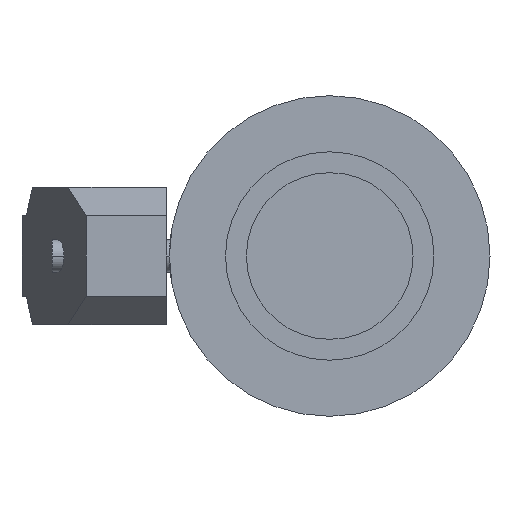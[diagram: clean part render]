
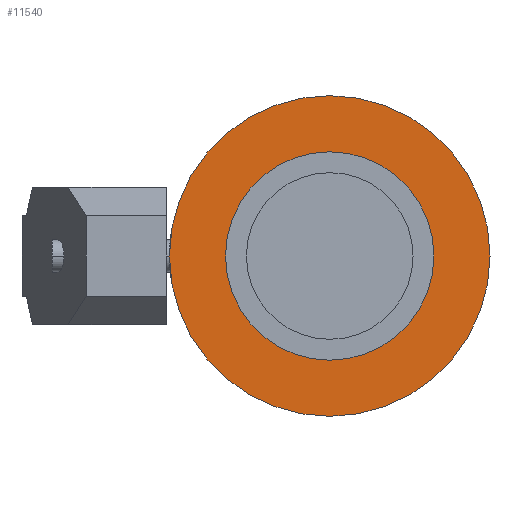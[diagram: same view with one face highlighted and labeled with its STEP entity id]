
A CAD part, left-side view. The second image highlights one B-rep face of the part: STEP entity #11540.
In plain terms, the highlighted planar face has unit normal (-1, 0, 0).
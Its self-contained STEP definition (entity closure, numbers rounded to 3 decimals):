
#11190=CARTESIAN_POINT('',(-83.686,56.962,0.));
#11200=DIRECTION('',(1.,0.,0.));
#11210=DIRECTION('',(0.,-1.,0.));
#11220=AXIS2_PLACEMENT_3D('',#11190,#11200,#11210);
#11230=PLANE('',#11220);
#11240=CARTESIAN_POINT('',(-83.686,9.312,0.));
#11250=DIRECTION('',(1.,0.,0.));
#11260=DIRECTION('',(0.,1.,0.));
#11270=AXIS2_PLACEMENT_3D('',#11240,#11250,#11260);
#11280=CIRCLE('',#11270,50.);
#11290=CARTESIAN_POINT('',(-83.686,59.312,
0.));
#11300=VERTEX_POINT('',#11290);
#11310=CARTESIAN_POINT('',(-83.686,-40.688,0.));
#11320=VERTEX_POINT('',#11310);
#11330=EDGE_CURVE('',#11300,#11320,#11280,.T.);
#11340=ORIENTED_EDGE('',*,*,#11330,.F.);
#11350=EDGE_CURVE('',#11320,#11300,#11280,.T.);
#11360=ORIENTED_EDGE('',*,*,#11350,.F.);
#11370=EDGE_LOOP('',(#11360,#11340));
#11380=FACE_OUTER_BOUND('',#11370,.T.);
#11390=CARTESIAN_POINT('',(-83.686,9.312,0.));
#11400=DIRECTION('',(-1.,0.,0.));
#11410=DIRECTION('',(0.,-1.,0.));
#11420=AXIS2_PLACEMENT_3D('',#11390,#11400,#11410);
#11430=CIRCLE('',#11420,30.);
#11440=CARTESIAN_POINT('',(-83.686,-20.688,0.));
#11450=VERTEX_POINT('',#11440);
#11460=CARTESIAN_POINT('',(-83.686,39.312,
0.));
#11470=VERTEX_POINT('',#11460);
#11480=EDGE_CURVE('',#11450,#11470,#11430,.T.);
#11490=ORIENTED_EDGE('',*,*,#11480,.F.);
#11500=EDGE_CURVE('',#11470,#11450,#11430,.T.);
#11510=ORIENTED_EDGE('',*,*,#11500,.F.);
#11520=EDGE_LOOP('',(#11510,#11490));
#11530=FACE_BOUND('',#11520,.T.);
#11540=ADVANCED_FACE('',(#11380,#11530),#11230,.F.);
